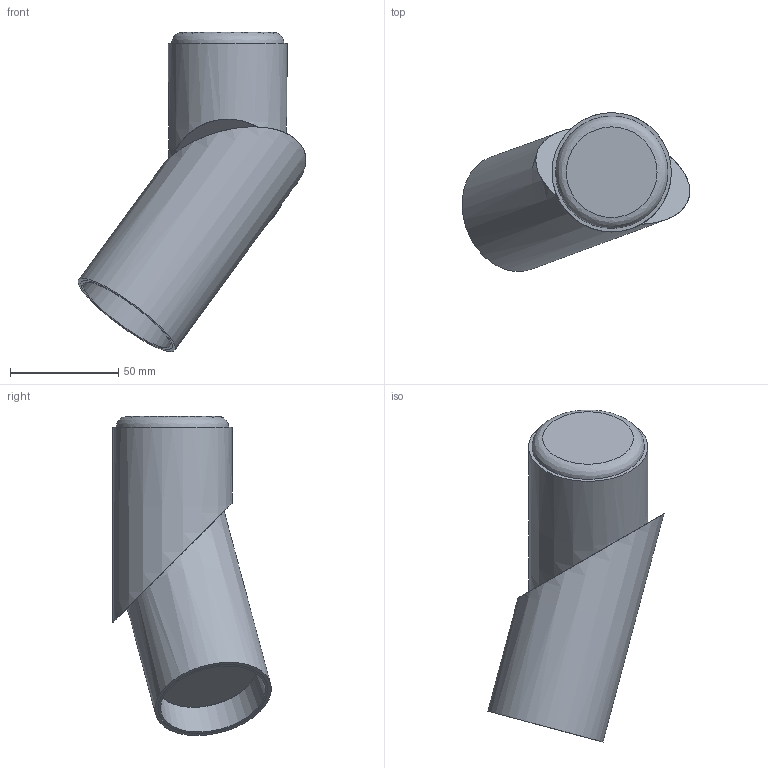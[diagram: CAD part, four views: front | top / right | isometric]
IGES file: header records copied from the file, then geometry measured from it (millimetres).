
Start section: SolidWorks IGES file using analytic representation for surfaces
Global section: file name: X:\PRODUKT\Modele 3D_WWW\_KOLEKCJE WWW\INDIA-7858-7860\INDIA-7858-7860.IGS; native system: SolidWorks 2021; preprocessor: SolidWorks 2021; author: gabriela.tworek; date: 221213.075140; units: millimetre
Bounding box: 104.9 x 73.02 x 147.19 mm (x, y, z)
Surface area: 64705.1 mm2 (no closed solid volume)
Topology: 0 solids, 0 shells, 19 faces, 47 edges, 39 vertices
Faces by surface type: bspline 11, revolution 8
